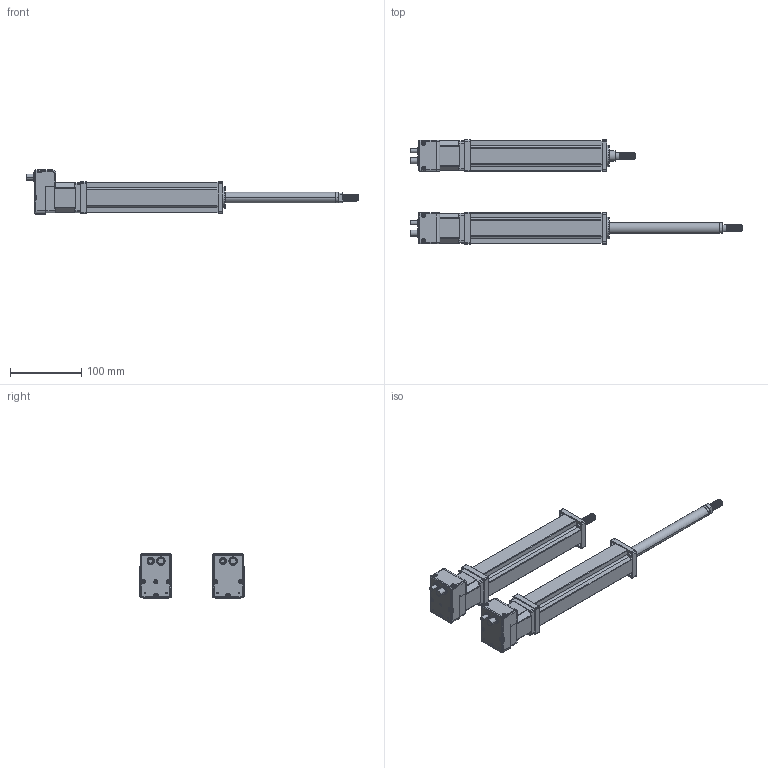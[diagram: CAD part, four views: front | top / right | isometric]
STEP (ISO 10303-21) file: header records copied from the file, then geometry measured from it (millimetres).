
FILE_DESCRIPTION(('STEP AP214'),'1');
FILE_NAME('D:\仕事\図面\SCN5\SCN5-010S\tmp0.STEP',' ',(' '),(' '),'XStep 1.0',' ',' ');
FILE_SCHEMA(('automotive_design'));
Length unit declared in the file: millimetre
Bounding box: 466 x 146.36 x 62 mm (x, y, z)
Volume: 913019.5 mm3; surface area: 165350.4 mm2
Topology: 41 solids, 41 shells, 1293 faces, 3318 edges, 2110 vertices
Faces by surface type: cylinder 674, plane 421, torus 152, bspline 30, sphere 12, cone 4
Entity records: 126171 total; most frequent: CARTESIAN_POINT 82764, DIRECTION 7152, ORIENTED_EDGE 6612, EDGE_CURVE 3306, AXIS2_PLACEMENT_3D 2757, VERTEX_POINT 2110, LINE 1638, VECTOR 1638
